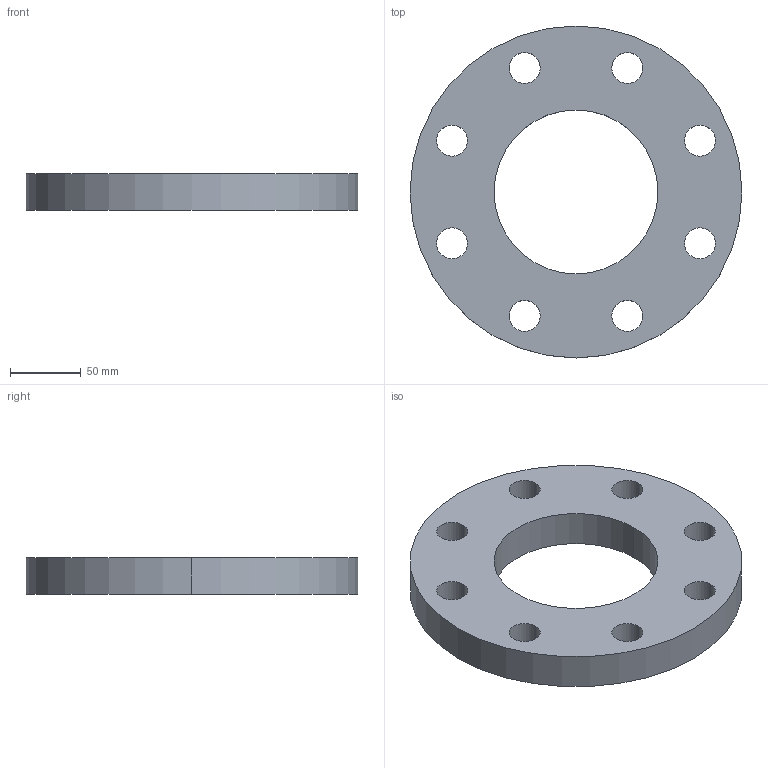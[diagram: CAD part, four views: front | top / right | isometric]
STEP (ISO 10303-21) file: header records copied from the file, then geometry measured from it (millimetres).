
FILE_DESCRIPTION (( 'STEP AP214' ), '1' );
FILE_NAME ('PN40 DN100 Type 01 - Type A Face.STEP', '2019-01-02T00:29:56', ( '' ), ( '' ), 'SwSTEP 2.0', 'SolidWorks 2019', '' );
FILE_SCHEMA (( 'AUTOMOTIVE_DESIGN' ));
Length unit declared in the file: millimetre
Products named in the file (1): PN40 DN100 Type 01 - Type A Face
Bounding box: 235 x 235 x 26 mm (x, y, z)
Volume: 773870.1 mm3; surface area: 102574.6 mm2
Topology: 1 solids, 1 shells, 22 faces, 60 edges, 40 vertices
Faces by surface type: cylinder 20, plane 2
Entity records: 794 total; most frequent: DIRECTION 146, CARTESIAN_POINT 123, ORIENTED_EDGE 120, AXIS2_PLACEMENT_3D 63, EDGE_CURVE 60, CIRCLE 40, EDGE_LOOP 40, VERTEX_POINT 40
